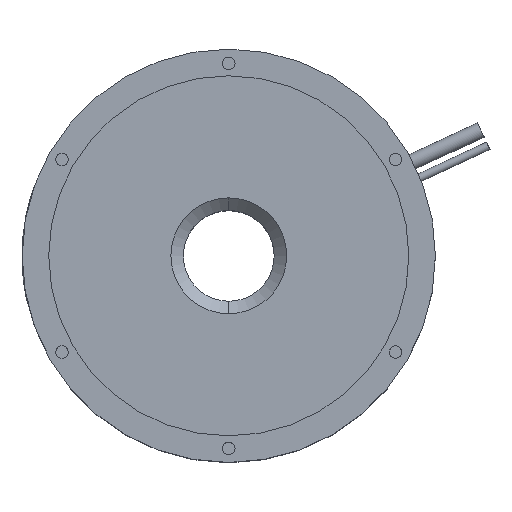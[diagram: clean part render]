
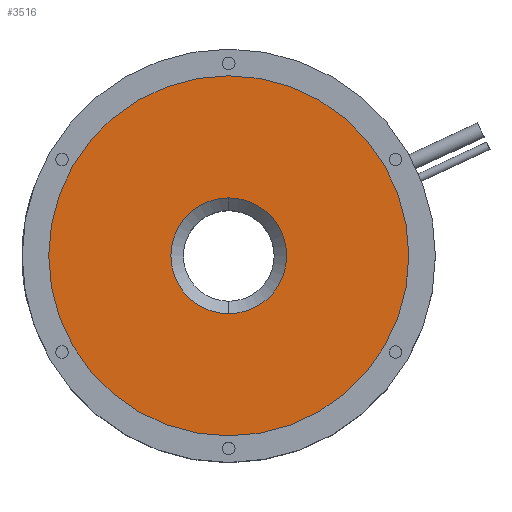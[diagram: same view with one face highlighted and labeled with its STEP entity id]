
A CAD part, top view. The second image highlights one B-rep face of the part: STEP entity #3516.
In plain terms, the highlighted planar face has unit normal (0, 0, 1).
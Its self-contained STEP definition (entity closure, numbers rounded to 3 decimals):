
#47 = VERTEX_POINT ( 'NONE', #1828 ) ;
#48 = VERTEX_POINT ( 'NONE', #1827 ) ;
#59 = EDGE_CURVE ( 'NONE', #48, #47, #1829, .T. ) ;
#1085 = VERTEX_POINT ( 'NONE', #4094 ) ;
#1110 = VERTEX_POINT ( 'NONE', #4132 ) ;
#1160 = EDGE_CURVE ( 'NONE', #1085, #1110, #4223, .T. ) ;
#1804 = CARTESIAN_POINT ( 'NONE',  ( 0., 0., 138. ) ) ;
#1808 = AXIS2_PLACEMENT_3D ( 'NONE', #1804, #1825, #1867 ) ;
#1825 = DIRECTION ( 'NONE',  ( 0., 0., -1. ) ) ;
#1827 = CARTESIAN_POINT ( 'NONE',  ( 0., 115., 138. ) ) ;
#1828 = CARTESIAN_POINT ( 'NONE',  ( 0., -115., 138. ) ) ;
#1829 = CIRCLE ( 'NONE', #1808, 115. ) ;
#1867 = DIRECTION ( 'NONE',  ( 0., 1., 0. ) ) ;
#3498 = EDGE_LOOP ( 'NONE', ( #3509, #3517 ) ) ;
#3509 = ORIENTED_EDGE ( 'NONE', *, *, #1160, .T. ) ;
#3511 = EDGE_CURVE ( 'NONE', #47, #48, #4771, .T. ) ;
#3512 = EDGE_LOOP ( 'NONE', ( #3527, #3526 ) ) ;
#3515 = EDGE_CURVE ( 'NONE', #1110, #1085, #5533, .T. ) ;
#3516 = ADVANCED_FACE ( 'NONE', ( #5820, #5818 ), #5813, .T. ) ;
#3517 = ORIENTED_EDGE ( 'NONE', *, *, #3515, .T. ) ;
#3526 = ORIENTED_EDGE ( 'NONE', *, *, #3511, .F. ) ;
#3527 = ORIENTED_EDGE ( 'NONE', *, *, #59, .F. ) ;
#4094 = CARTESIAN_POINT ( 'NONE',  ( 0., -37., 138. ) ) ;
#4132 = CARTESIAN_POINT ( 'NONE',  ( 0., 37., 138. ) ) ;
#4209 = DIRECTION ( 'NONE',  ( 0., -1., 0. ) ) ;
#4217 = DIRECTION ( 'NONE',  ( 0., 0., -1. ) ) ;
#4219 = CARTESIAN_POINT ( 'NONE',  ( 0., 0., 138. ) ) ;
#4221 = AXIS2_PLACEMENT_3D ( 'NONE', #4219, #4217, #4209 ) ;
#4223 = CIRCLE ( 'NONE', #4221, 37. ) ;
#4771 = CIRCLE ( 'NONE', #5023, 115. ) ;
#5020 = DIRECTION ( 'NONE',  ( 0., 1., 0. ) ) ;
#5021 = DIRECTION ( 'NONE',  ( 0., 0., -1. ) ) ;
#5023 = AXIS2_PLACEMENT_3D ( 'NONE', #5049, #5021, #5020 ) ;
#5049 = CARTESIAN_POINT ( 'NONE',  ( 0., 0., 138. ) ) ;
#5514 = AXIS2_PLACEMENT_3D ( 'NONE', #5521, #5520, #5525 ) ;
#5520 = DIRECTION ( 'NONE',  ( 0., 0., -1. ) ) ;
#5521 = CARTESIAN_POINT ( 'NONE',  ( 0., 0., 138. ) ) ;
#5525 = DIRECTION ( 'NONE',  ( 0., -1., 0. ) ) ;
#5533 = CIRCLE ( 'NONE', #5514, 37. ) ;
#5809 = DIRECTION ( 'NONE',  ( 0., -1., 0. ) ) ;
#5810 = DIRECTION ( 'NONE',  ( 0., 0., 1. ) ) ;
#5811 = CARTESIAN_POINT ( 'NONE',  ( 0., -29., 138. ) ) ;
#5812 = AXIS2_PLACEMENT_3D ( 'NONE', #5811, #5810, #5809 ) ;
#5813 = PLANE ( 'NONE',  #5812 ) ;
#5818 = FACE_OUTER_BOUND ( 'NONE', #3512, .T. ) ;
#5820 = FACE_BOUND ( 'NONE', #3498, .T. ) ;
